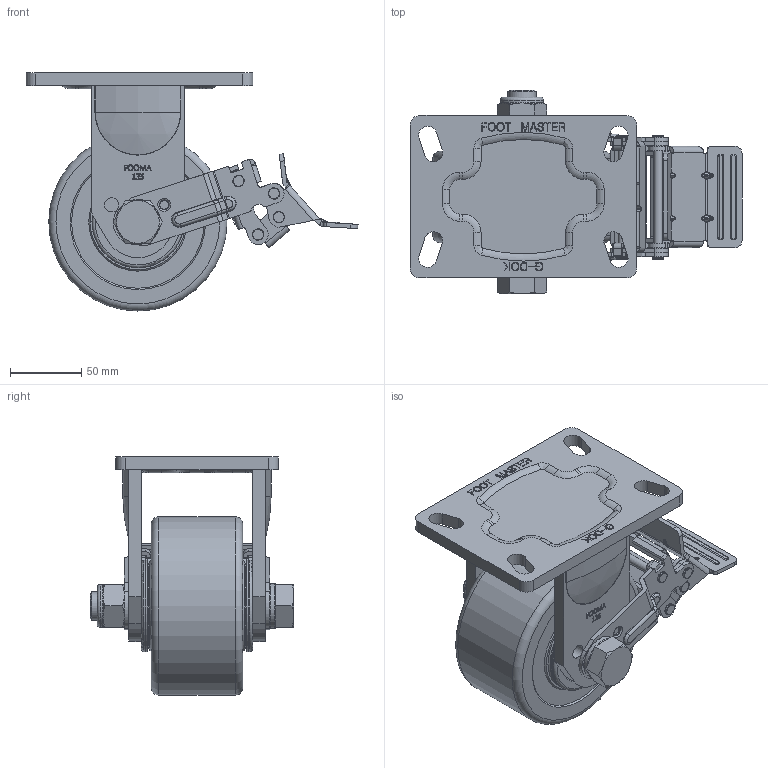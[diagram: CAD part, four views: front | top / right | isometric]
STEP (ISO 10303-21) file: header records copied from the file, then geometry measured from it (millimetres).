
FILE_DESCRIPTION(/* description */ (''),/* implementation_level */ '2;1');
FILE_NAME(/* name */ 'C:\Users\황치선\Desktop\JYS\4.DWG WORK\GF-SERIES 신규 홈페이지용 도면\GF-125-ASF-MCD\GF-125-BRF-MCD.stp',/* time_stamp */ '2019-08-29T19:56:19+09:00',/* author */ ('황치선'),/* organization */ (''),/* preprocessor_version */ 'ST-DEVELOPER v16.13',/* originating_system */ 'Autodesk Inventor 2018',/* authorisation */ '');
FILE_SCHEMA (('AUTOMOTIVE_DESIGN { 1 0 10303 214 3 1 1 }'));
Length unit declared in the file: millimetre
Products named in the file (1): GF-125-BRF-MCD
Bounding box: 232.9 x 143 x 167 mm (x, y, z)
Volume: 41181.9 mm3; surface area: 189221.2 mm2
Topology: 5 solids, 7 shells, 1829 faces, 4904 edges, 3112 vertices
Faces by surface type: plane 660, bspline 526, cylinder 493, torus 102, cone 32, sphere 16
Full cylindrical faces by diameter (mm): 4 x4, 6 x4, 6.2 x18, 7 x2, 8 x8, 9.7 x2, 10 x4, 20 x3, 20.2 x4, 24.9 x2, 30 x1, 32.334 x2, 39.666 x2, 64.519 x2, 125 x1
Entity records: 64709 total; most frequent: CARTESIAN_POINT 22177, ORIENTED_EDGE 9388, DIRECTION 7826, EDGE_CURVE 4688, VERTEX_POINT 3048, AXIS2_PLACEMENT_3D 2768, LINE 2290, VECTOR 2290
